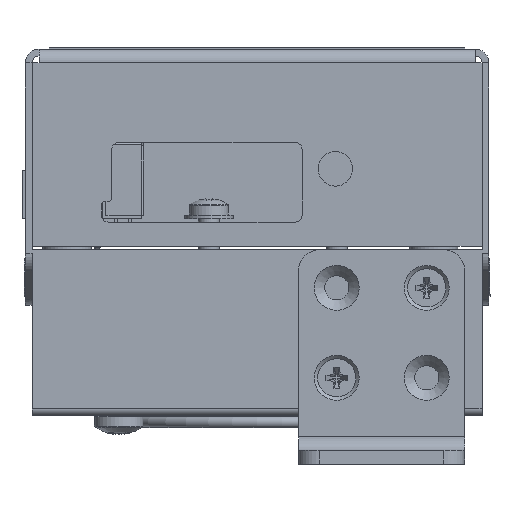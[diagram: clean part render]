
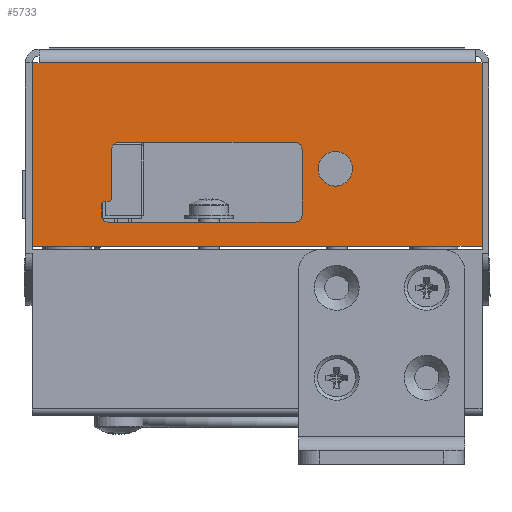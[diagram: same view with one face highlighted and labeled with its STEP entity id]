
A CAD part, front view. The second image highlights one B-rep face of the part: STEP entity #5733.
In plain terms, the highlighted planar face has unit normal (0, -1, 0).
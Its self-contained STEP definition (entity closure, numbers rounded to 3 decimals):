
#5733=ADVANCED_FACE('',(#34966,#34968,#34970),#34972,.T.);
#34966=FACE_BOUND('',#34967,.T.);
#34967=EDGE_LOOP('',(#61470,#61471,#61472,#61473,#61474,#61475));
#34968=FACE_BOUND('',#34969,.T.);
#34969=EDGE_LOOP('',(#61476,#61477,#61478,#61479,#61480,#61481,#61482,#61483,#61484,
#61485,#61486,#61487));
#34970=FACE_BOUND('',#34971,.T.);
#34971=EDGE_LOOP('',(#61488));
#34972=PLANE('',#34973);
#34973=AXIS2_PLACEMENT_3D('',#34974,#34975,#34976);
#34974=CARTESIAN_POINT('',(46.5,-0.5,8.699));
#34975=DIRECTION('',(0.,-1.,0.));
#34976=DIRECTION('',(0.,0.,-1.));
#61470=ORIENTED_EDGE('',*,*,#77529,.T.);
#61471=ORIENTED_EDGE('',*,*,#77527,.T.);
#61472=ORIENTED_EDGE('',*,*,#77907,.T.);
#61473=ORIENTED_EDGE('',*,*,#77994,.T.);
#61474=ORIENTED_EDGE('',*,*,#77995,.T.);
#61475=ORIENTED_EDGE('',*,*,#77996,.T.);
#61476=ORIENTED_EDGE('',*,*,#77997,.F.);
#61477=ORIENTED_EDGE('',*,*,#77998,.T.);
#61478=ORIENTED_EDGE('',*,*,#77999,.F.);
#61479=ORIENTED_EDGE('',*,*,#78000,.T.);
#61480=ORIENTED_EDGE('',*,*,#78001,.F.);
#61481=ORIENTED_EDGE('',*,*,#78002,.T.);
#61482=ORIENTED_EDGE('',*,*,#78003,.F.);
#61483=ORIENTED_EDGE('',*,*,#78004,.T.);
#61484=ORIENTED_EDGE('',*,*,#78005,.F.);
#61485=ORIENTED_EDGE('',*,*,#78006,.T.);
#61486=ORIENTED_EDGE('',*,*,#78007,.F.);
#61487=ORIENTED_EDGE('',*,*,#78008,.T.);
#61488=ORIENTED_EDGE('',*,*,#78009,.T.);
#77527=EDGE_CURVE('',#86430,#87270,#87513,.T.);
#77529=EDGE_CURVE('',#87516,#86430,#87517,.T.);
#77907=EDGE_CURVE('',#87270,#88090,#88092,.T.);
#77994=EDGE_CURVE('',#88090,#88225,#88226,.T.);
#77995=EDGE_CURVE('',#88225,#88227,#88228,.T.);
#77996=EDGE_CURVE('',#88227,#87516,#88229,.T.);
#77997=EDGE_CURVE('',#88230,#88231,#88232,.F.);
#77998=EDGE_CURVE('',#88230,#88233,#88234,.F.);
#77999=EDGE_CURVE('',#88235,#88233,#88236,.F.);
#78000=EDGE_CURVE('',#88235,#88237,#88238,.F.);
#78001=EDGE_CURVE('',#88239,#88237,#88240,.T.);
#78002=EDGE_CURVE('',#88239,#88241,#88242,.F.);
#78003=EDGE_CURVE('',#88243,#88241,#88244,.T.);
#78004=EDGE_CURVE('',#88243,#88245,#88246,.F.);
#78005=EDGE_CURVE('',#88247,#88245,#88248,.F.);
#78006=EDGE_CURVE('',#88247,#88249,#88250,.F.);
#78007=EDGE_CURVE('',#88251,#88249,#88252,.F.);
#78008=EDGE_CURVE('',#88251,#88231,#88253,.F.);
#78009=EDGE_CURVE('',#88254,#88254,#88255,.F.);
#86430=VERTEX_POINT('',#103252);
#87270=VERTEX_POINT('',#105289);
#87513=LINE('',#105911,#105912);
#87516=VERTEX_POINT('',#105918);
#87517=LINE('',#105919,#105920);
#88090=VERTEX_POINT('',#107443);
#88092=LINE('',#107447,#107448);
#88225=VERTEX_POINT('',#107760);
#88226=LINE('',#107761,#107762);
#88227=VERTEX_POINT('',#107764);
#88228=LINE('',#107765,#107766);
#88229=LINE('',#107768,#107769);
#88230=VERTEX_POINT('',#107771);
#88231=VERTEX_POINT('',#107772);
#88232=CIRCLE('',#107773,0.5);
#88233=VERTEX_POINT('',#107777);
#88234=LINE('',#107778,#107779);
#88235=VERTEX_POINT('',#107781);
#88236=CIRCLE('',#107782,0.5);
#88237=VERTEX_POINT('',#107786);
#88238=LINE('',#107787,#107788);
#88239=VERTEX_POINT('',#107790);
#88240=CIRCLE('',#107791,1.);
#88241=VERTEX_POINT('',#107795);
#88242=LINE('',#107796,#107797);
#88243=VERTEX_POINT('',#107799);
#88244=CIRCLE('',#107800,1.);
#88245=VERTEX_POINT('',#107804);
#88246=LINE('',#107805,#107806);
#88247=VERTEX_POINT('',#107808);
#88248=CIRCLE('',#107809,1.);
#88249=VERTEX_POINT('',#107813);
#88250=LINE('',#107814,#107815);
#88251=VERTEX_POINT('',#107817);
#88252=CIRCLE('',#107818,1.);
#88253=LINE('',#107822,#107823);
#88254=VERTEX_POINT('',#107825);
#88255=CIRCLE('',#107826,2.5);
#103252=CARTESIAN_POINT('',(63.5,-0.5,22.));
#105289=CARTESIAN_POINT('',(0.5,-0.5,22.));
#105911=CARTESIAN_POINT('',(63.5,-0.5,22.));
#105912=VECTOR('',#105913,1.);
#105913=DIRECTION('',(-1.,0.,0.));
#105918=CARTESIAN_POINT('',(64.5,-0.5,22.));
#105919=CARTESIAN_POINT('',(64.5,-0.5,22.));
#105920=VECTOR('',#105921,1.);
#105921=DIRECTION('',(-1.,0.,0.));
#107443=CARTESIAN_POINT('',(-0.5,-0.5,22.));
#107447=CARTESIAN_POINT('',(0.5,-0.5,22.));
#107448=VECTOR('',#107449,1.);
#107449=DIRECTION('',(-1.,0.,0.));
#107760=CARTESIAN_POINT('',(-0.5,-0.5,-4.5));
#107761=CARTESIAN_POINT('',(-0.5,-0.5,22.));
#107762=VECTOR('',#107763,1.);
#107763=DIRECTION('',(0.,0.,-1.));
#107764=CARTESIAN_POINT('',(64.5,-0.5,-4.5));
#107765=CARTESIAN_POINT('',(-0.5,-0.5,-4.5));
#107766=VECTOR('',#107767,1.);
#107767=DIRECTION('',(1.,0.,0.));
#107768=CARTESIAN_POINT('',(64.5,-0.5,-4.5));
#107769=VECTOR('',#107770,1.);
#107770=DIRECTION('',(0.,0.,1.));
#107771=CARTESIAN_POINT('',(10.,-0.5,2.));
#107772=CARTESIAN_POINT('',(9.5,-0.5,1.5));
#107773=AXIS2_PLACEMENT_3D('',#107774,#107775,#107776);
#107774=CARTESIAN_POINT('',(10.,-0.5,1.5));
#107775=DIRECTION('',(0.,1.,0.));
#107776=DIRECTION('',(-1.,0.,0.));
#107777=CARTESIAN_POINT('',(10.5,-0.5,2.));
#107778=CARTESIAN_POINT('',(10.5,-0.5,2.));
#107779=VECTOR('',#107780,1.);
#107780=DIRECTION('',(-1.,0.,0.));
#107781=CARTESIAN_POINT('',(11.,-0.5,2.5));
#107782=AXIS2_PLACEMENT_3D('',#107783,#107784,#107785);
#107783=CARTESIAN_POINT('',(10.5,-0.5,2.5));
#107784=DIRECTION('',(0.,-1.,0.));
#107785=DIRECTION('',(0.,0.,-1.));
#107786=CARTESIAN_POINT('',(11.,-0.5,9.5));
#107787=CARTESIAN_POINT('',(11.,-0.5,9.5));
#107788=VECTOR('',#107789,1.);
#107789=DIRECTION('',(0.,0.,-1.));
#107790=CARTESIAN_POINT('',(12.,-0.5,10.5));
#107791=AXIS2_PLACEMENT_3D('',#107792,#107793,#107794);
#107792=CARTESIAN_POINT('',(12.,-0.5,9.5));
#107793=DIRECTION('',(0.,-1.,0.));
#107794=DIRECTION('',(0.,0.,1.));
#107795=CARTESIAN_POINT('',(37.5,-0.5,10.5));
#107796=CARTESIAN_POINT('',(37.5,-0.5,10.5));
#107797=VECTOR('',#107798,1.);
#107798=DIRECTION('',(-1.,0.,0.));
#107799=CARTESIAN_POINT('',(38.5,-0.5,9.5));
#107800=AXIS2_PLACEMENT_3D('',#107801,#107802,#107803);
#107801=CARTESIAN_POINT('',(37.5,-0.5,9.5));
#107802=DIRECTION('',(0.,-1.,0.));
#107803=DIRECTION('',(1.,0.,0.));
#107804=CARTESIAN_POINT('',(38.5,-0.5,0.));
#107805=CARTESIAN_POINT('',(38.5,-0.5,0.));
#107806=VECTOR('',#107807,1.);
#107807=DIRECTION('',(0.,0.,1.));
#107808=CARTESIAN_POINT('',(37.5,-0.5,-1.));
#107809=AXIS2_PLACEMENT_3D('',#107810,#107811,#107812);
#107810=CARTESIAN_POINT('',(37.5,-0.5,0.));
#107811=DIRECTION('',(0.,1.,0.));
#107812=DIRECTION('',(1.,0.,0.));
#107813=CARTESIAN_POINT('',(10.5,-0.5,-1.));
#107814=CARTESIAN_POINT('',(10.5,-0.5,-1.));
#107815=VECTOR('',#107816,1.);
#107816=DIRECTION('',(1.,0.,0.));
#107817=CARTESIAN_POINT('',(9.5,-0.5,0.));
#107818=AXIS2_PLACEMENT_3D('',#107819,#107820,#107821);
#107819=CARTESIAN_POINT('',(10.5,-0.5,0.));
#107820=DIRECTION('',(0.,1.,0.));
#107821=DIRECTION('',(0.,0.,-1.));
#107822=CARTESIAN_POINT('',(9.5,-0.5,1.5));
#107823=VECTOR('',#107824,1.);
#107824=DIRECTION('',(0.,0.,-1.));
#107825=CARTESIAN_POINT('',(43.3,-0.5,9.2));
#107826=AXIS2_PLACEMENT_3D('',#107827,#107828,#107829);
#107827=CARTESIAN_POINT('',(43.3,-0.5,6.7));
#107828=DIRECTION('',(0.,-1.,0.));
#107829=DIRECTION('',(0.,0.,1.));
